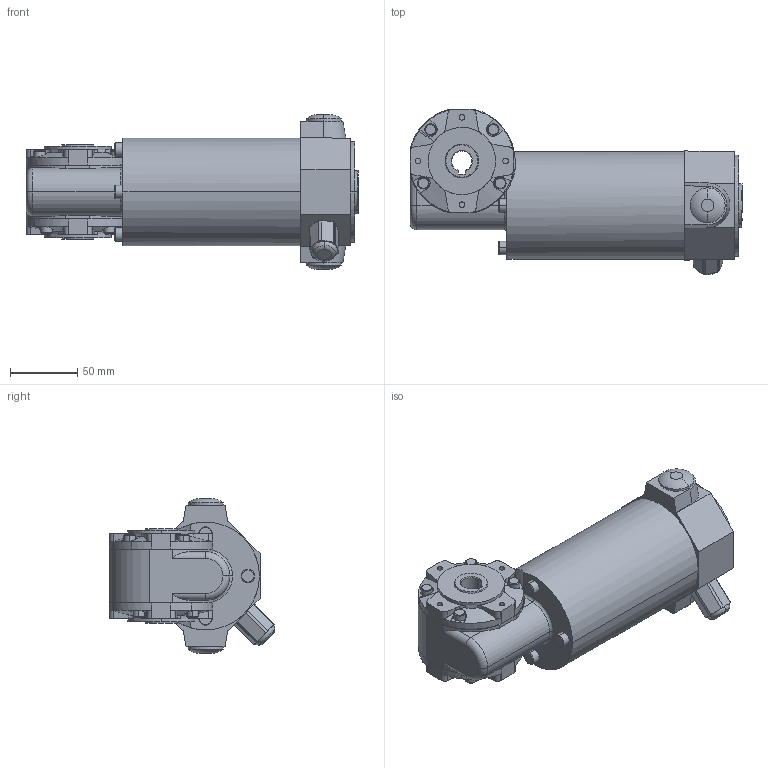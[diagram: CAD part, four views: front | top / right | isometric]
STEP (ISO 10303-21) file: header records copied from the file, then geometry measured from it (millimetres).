
FILE_DESCRIPTION(('OneSpaceDesigner STEP Export'),'2;1');
FILE_NAME('EPG13_GB130.stp','2008-07-10T 9:00:09',(''),(''),'OneSpace Designer STEP processor (Jan. 2003) for AP214(CD)(Solid Model)','OneSpace Designer 12.01D 09-Jul-2004 (C) CoCreate Software GmbH','');
FILE_SCHEMA(('AUTOMOTIVE_DESIGN_CC2 {1 2 10303 214 -1 1 5 1}'));
Length unit declared in the file: millimetre
Products named in the file (2): EPG13_GB130
Assembly tree (1 placements, depth 2):
  EPG13_GB130
    EPG13_GB130
Bounding box: 246.5 x 122.89 x 115 mm (x, y, z)
Volume: 1230909.8 mm3; surface area: 89676.3 mm2
Topology: 1 solids, 1 shells, 330 faces, 844 edges, 546 vertices
Faces by surface type: cylinder 143, plane 125, cone 48, torus 12, bspline 2
Entity records: 16861 total; most frequent: CARTESIAN_POINT 9516, ORIENTED_EDGE 1688, DIRECTION 1222, EDGE_CURVE 844, VERTEX_POINT 546, AXIS2_PLACEMENT_3D 429, VECTOR 364, LINE 364
